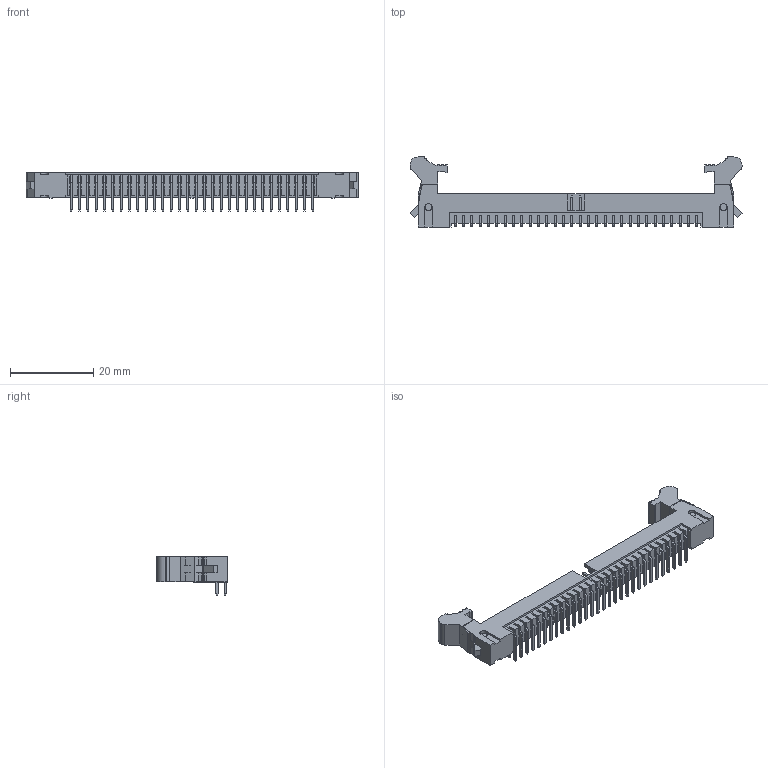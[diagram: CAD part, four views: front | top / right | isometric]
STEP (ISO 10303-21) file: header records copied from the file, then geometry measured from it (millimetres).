
FILE_DESCRIPTION (( 'STEP AP203' ), '1' );
FILE_NAME ('HC-NJ200-2-30-W-16.85-XX-X-M (2.00 籟褒 俔渀 笢嫉諶-HCTL).STEP', '2026-02-05T07:38:09', ( '' ), ( '' ), 'SwSTEP 2.0', 'SolidWorks 2025', '' );
FILE_SCHEMA (( 'CONFIG_CONTROL_DESIGN' ));
Length unit declared in the file: millimetre
Products named in the file (1): HC-NJ200-2-30-W-16.85-XX-X-M (2.00 牛角 弯针 中耳扣-HCTL)
Bounding box: 79.68 x 16.85 x 9.2 mm (x, y, z)
Volume: 2563.3 mm3; surface area: 5103.5 mm2
Topology: 1 solids, 1 shells, 1972 faces, 5058 edges, 3212 vertices
Faces by surface type: plane 1792, cylinder 180
Entity records: 58307 total; most frequent: CARTESIAN_POINT 10243, ORIENTED_EDGE 10116, DIRECTION 9372, EDGE_CURVE 5058, VECTOR 4690, LINE 4690, VERTEX_POINT 3212, AXIS2_PLACEMENT_3D 2341
